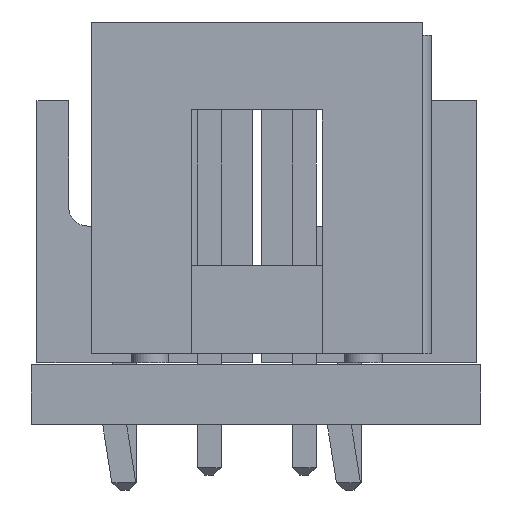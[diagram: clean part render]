
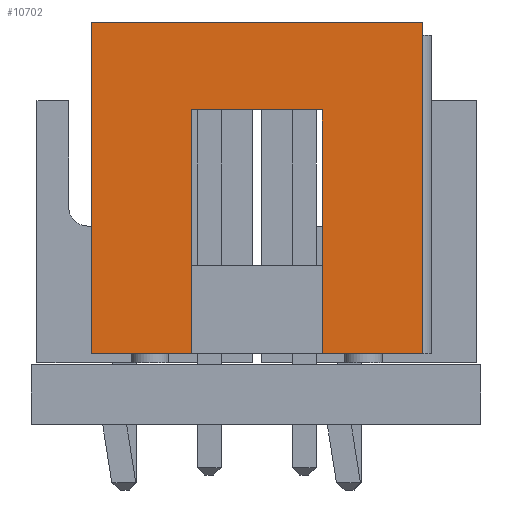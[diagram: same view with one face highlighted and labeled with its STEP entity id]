
A CAD part, left-side view. The second image highlights one B-rep face of the part: STEP entity #10702.
In plain terms, the highlighted planar face has unit normal (-1, 0, 0) as drawn and (0, -1, 0) by its records, which use the part's own axes.
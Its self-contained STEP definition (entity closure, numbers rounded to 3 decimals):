
#9846 = PLANE('',#9847);
#9847 = AXIS2_PLACEMENT_3D('',#9848,#9849,#9850);
#9848 = CARTESIAN_POINT('',(-3.155,-11.43,4.675));
#9849 = DIRECTION('',(-1.,0.,0.));
#9850 = DIRECTION('',(0.,0.,-1.));
#9871 = VERTEX_POINT('',#9872);
#9872 = CARTESIAN_POINT('',(-3.155,-27.96,0.25));
#9886 = PLANE('',#9887);
#9887 = AXIS2_PLACEMENT_3D('',#9888,#9889,#9890);
#9888 = CARTESIAN_POINT('',(1.304,-11.43,0.25));
#9889 = DIRECTION('',(-0.,-0.,-1.));
#9890 = DIRECTION('',(-1.,0.,0.));
#9898 = EDGE_CURVE('',#9871,#9899,#9901,.T.);
#9899 = VERTEX_POINT('',#9900);
#9900 = CARTESIAN_POINT('',(-3.155,-27.96,9.1));
#9901 = SURFACE_CURVE('',#9902,(#9906,#9913),.PCURVE_S1.);
#9902 = LINE('',#9903,#9904);
#9903 = CARTESIAN_POINT('',(-3.155,-27.96,2.6));
#9904 = VECTOR('',#9905,1.);
#9905 = DIRECTION('',(0.,0.,1.));
#9906 = PCURVE('',#9846,#9907);
#9907 = DEFINITIONAL_REPRESENTATION('',(#9908),#9912);
#9908 = LINE('',#9909,#9910);
#9909 = CARTESIAN_POINT('',(2.075,16.53));
#9910 = VECTOR('',#9911,1.);
#9911 = DIRECTION('',(-1.,0.));
#9912 = ( GEOMETRIC_REPRESENTATION_CONTEXT(2) 
PARAMETRIC_REPRESENTATION_CONTEXT() REPRESENTATION_CONTEXT('2D SPACE',''
  ) );
#9913 = PCURVE('',#9914,#9919);
#9914 = PLANE('',#9915);
#9915 = AXIS2_PLACEMENT_3D('',#9916,#9917,#9918);
#9916 = CARTESIAN_POINT('',(1.27,-27.96,4.675));
#9917 = DIRECTION('',(-0.,-1.,0.));
#9918 = DIRECTION('',(0.,0.,-1.));
#9919 = DEFINITIONAL_REPRESENTATION('',(#9920),#9924);
#9920 = LINE('',#9921,#9922);
#9921 = CARTESIAN_POINT('',(2.075,-4.425));
#9922 = VECTOR('',#9923,1.);
#9923 = DIRECTION('',(-1.,0.));
#9924 = ( GEOMETRIC_REPRESENTATION_CONTEXT(2) 
PARAMETRIC_REPRESENTATION_CONTEXT() REPRESENTATION_CONTEXT('2D SPACE',''
  ) );
#9942 = PLANE('',#9943);
#9943 = AXIS2_PLACEMENT_3D('',#9944,#9945,#9946);
#9944 = CARTESIAN_POINT('',(1.27,-11.43,9.1));
#9945 = DIRECTION('',(0.,0.,1.));
#9946 = DIRECTION('',(1.,0.,-0.));
#10080 = PLANE('',#10081);
#10081 = AXIS2_PLACEMENT_3D('',#10082,#10083,#10084);
#10082 = CARTESIAN_POINT('',(5.695,-11.43,4.675));
#10083 = DIRECTION('',(1.,0.,0.));
#10084 = DIRECTION('',(0.,0.,1.));
#10246 = EDGE_CURVE('',#9899,#10247,#10249,.T.);
#10247 = VERTEX_POINT('',#10248);
#10248 = CARTESIAN_POINT('',(5.695,-27.96,9.1));
#10249 = SURFACE_CURVE('',#10250,(#10254,#10261),.PCURVE_S1.);
#10250 = LINE('',#10251,#10252);
#10251 = CARTESIAN_POINT('',(-3.155,-27.96,9.1));
#10252 = VECTOR('',#10253,1.);
#10253 = DIRECTION('',(1.,0.,0.));
#10254 = PCURVE('',#9942,#10255);
#10255 = DEFINITIONAL_REPRESENTATION('',(#10256),#10260);
#10256 = LINE('',#10257,#10258);
#10257 = CARTESIAN_POINT('',(-4.425,-16.53));
#10258 = VECTOR('',#10259,1.);
#10259 = DIRECTION('',(1.,0.));
#10260 = ( GEOMETRIC_REPRESENTATION_CONTEXT(2) 
PARAMETRIC_REPRESENTATION_CONTEXT() REPRESENTATION_CONTEXT('2D SPACE',''
  ) );
#10261 = PCURVE('',#9914,#10262);
#10262 = DEFINITIONAL_REPRESENTATION('',(#10263),#10267);
#10263 = LINE('',#10264,#10265);
#10264 = CARTESIAN_POINT('',(-4.425,-4.425));
#10265 = VECTOR('',#10266,1.);
#10266 = DIRECTION('',(0.,1.));
#10267 = ( GEOMETRIC_REPRESENTATION_CONTEXT(2) 
PARAMETRIC_REPRESENTATION_CONTEXT() REPRESENTATION_CONTEXT('2D SPACE',''
  ) );
#10702 = ADVANCED_FACE('',(#10703),#9914,.T.);
#10703 = FACE_BOUND('',#10704,.T.);
#10704 = EDGE_LOOP('',(#10705,#10706,#10729,#10757,#10785,#10813,#10836,
    #10857));
#10705 = ORIENTED_EDGE('',*,*,#9898,.F.);
#10706 = ORIENTED_EDGE('',*,*,#10707,.T.);
#10707 = EDGE_CURVE('',#9871,#10708,#10710,.T.);
#10708 = VERTEX_POINT('',#10709);
#10709 = CARTESIAN_POINT('',(-0.48,-27.96,0.25));
#10710 = SURFACE_CURVE('',#10711,(#10715,#10722),.PCURVE_S1.);
#10711 = LINE('',#10712,#10713);
#10712 = CARTESIAN_POINT('',(-3.155,-27.96,0.25));
#10713 = VECTOR('',#10714,1.);
#10714 = DIRECTION('',(1.,0.,0.));
#10715 = PCURVE('',#9914,#10716);
#10716 = DEFINITIONAL_REPRESENTATION('',(#10717),#10721);
#10717 = LINE('',#10718,#10719);
#10718 = CARTESIAN_POINT('',(4.425,-4.425));
#10719 = VECTOR('',#10720,1.);
#10720 = DIRECTION('',(0.,1.));
#10721 = ( GEOMETRIC_REPRESENTATION_CONTEXT(2) 
PARAMETRIC_REPRESENTATION_CONTEXT() REPRESENTATION_CONTEXT('2D SPACE',''
  ) );
#10722 = PCURVE('',#9886,#10723);
#10723 = DEFINITIONAL_REPRESENTATION('',(#10724),#10728);
#10724 = LINE('',#10725,#10726);
#10725 = CARTESIAN_POINT('',(4.459,-16.53));
#10726 = VECTOR('',#10727,1.);
#10727 = DIRECTION('',(-1.,0.));
#10728 = ( GEOMETRIC_REPRESENTATION_CONTEXT(2) 
PARAMETRIC_REPRESENTATION_CONTEXT() REPRESENTATION_CONTEXT('2D SPACE',''
  ) );
#10729 = ORIENTED_EDGE('',*,*,#10730,.T.);
#10730 = EDGE_CURVE('',#10708,#10731,#10733,.T.);
#10731 = VERTEX_POINT('',#10732);
#10732 = CARTESIAN_POINT('',(-0.48,-27.96,6.75));
#10733 = SURFACE_CURVE('',#10734,(#10738,#10745),.PCURVE_S1.);
#10734 = LINE('',#10735,#10736);
#10735 = CARTESIAN_POINT('',(-0.48,-27.96,2.463));
#10736 = VECTOR('',#10737,1.);
#10737 = DIRECTION('',(0.,0.,1.));
#10738 = PCURVE('',#9914,#10739);
#10739 = DEFINITIONAL_REPRESENTATION('',(#10740),#10744);
#10740 = LINE('',#10741,#10742);
#10741 = CARTESIAN_POINT('',(2.213,-1.75));
#10742 = VECTOR('',#10743,1.);
#10743 = DIRECTION('',(-1.,0.));
#10744 = ( GEOMETRIC_REPRESENTATION_CONTEXT(2) 
PARAMETRIC_REPRESENTATION_CONTEXT() REPRESENTATION_CONTEXT('2D SPACE',''
  ) );
#10745 = PCURVE('',#10746,#10751);
#10746 = PLANE('',#10747);
#10747 = AXIS2_PLACEMENT_3D('',#10748,#10749,#10750);
#10748 = CARTESIAN_POINT('',(-0.48,-26.71,0.25));
#10749 = DIRECTION('',(1.,0.,0.));
#10750 = DIRECTION('',(0.,-1.,0.));
#10751 = DEFINITIONAL_REPRESENTATION('',(#10752),#10756);
#10752 = LINE('',#10753,#10754);
#10753 = CARTESIAN_POINT('',(1.25,-2.213));
#10754 = VECTOR('',#10755,1.);
#10755 = DIRECTION('',(0.,-1.));
#10756 = ( GEOMETRIC_REPRESENTATION_CONTEXT(2) 
PARAMETRIC_REPRESENTATION_CONTEXT() REPRESENTATION_CONTEXT('2D SPACE',''
  ) );
#10757 = ORIENTED_EDGE('',*,*,#10758,.F.);
#10758 = EDGE_CURVE('',#10759,#10731,#10761,.T.);
#10759 = VERTEX_POINT('',#10760);
#10760 = CARTESIAN_POINT('',(3.02,-27.96,6.75));
#10761 = SURFACE_CURVE('',#10762,(#10766,#10773),.PCURVE_S1.);
#10762 = LINE('',#10763,#10764);
#10763 = CARTESIAN_POINT('',(1.27,-27.96,6.75));
#10764 = VECTOR('',#10765,1.);
#10765 = DIRECTION('',(-1.,0.,0.));
#10766 = PCURVE('',#9914,#10767);
#10767 = DEFINITIONAL_REPRESENTATION('',(#10768),#10772);
#10768 = LINE('',#10769,#10770);
#10769 = CARTESIAN_POINT('',(-2.075,0.));
#10770 = VECTOR('',#10771,1.);
#10771 = DIRECTION('',(0.,-1.));
#10772 = ( GEOMETRIC_REPRESENTATION_CONTEXT(2) 
PARAMETRIC_REPRESENTATION_CONTEXT() REPRESENTATION_CONTEXT('2D SPACE',''
  ) );
#10773 = PCURVE('',#10774,#10779);
#10774 = PLANE('',#10775);
#10775 = AXIS2_PLACEMENT_3D('',#10776,#10777,#10778);
#10776 = CARTESIAN_POINT('',(1.27,-27.96,6.75));
#10777 = DIRECTION('',(0.,0.,1.));
#10778 = DIRECTION('',(1.,0.,-0.));
#10779 = DEFINITIONAL_REPRESENTATION('',(#10780),#10784);
#10780 = LINE('',#10781,#10782);
#10781 = CARTESIAN_POINT('',(0.,0.));
#10782 = VECTOR('',#10783,1.);
#10783 = DIRECTION('',(-1.,0.));
#10784 = ( GEOMETRIC_REPRESENTATION_CONTEXT(2) 
PARAMETRIC_REPRESENTATION_CONTEXT() REPRESENTATION_CONTEXT('2D SPACE',''
  ) );
#10785 = ORIENTED_EDGE('',*,*,#10786,.T.);
#10786 = EDGE_CURVE('',#10759,#10787,#10789,.T.);
#10787 = VERTEX_POINT('',#10788);
#10788 = CARTESIAN_POINT('',(3.02,-27.96,0.25));
#10789 = SURFACE_CURVE('',#10790,(#10794,#10801),.PCURVE_S1.);
#10790 = LINE('',#10791,#10792);
#10791 = CARTESIAN_POINT('',(3.02,-27.96,2.463));
#10792 = VECTOR('',#10793,1.);
#10793 = DIRECTION('',(0.,0.,-1.));
#10794 = PCURVE('',#9914,#10795);
#10795 = DEFINITIONAL_REPRESENTATION('',(#10796),#10800);
#10796 = LINE('',#10797,#10798);
#10797 = CARTESIAN_POINT('',(2.213,1.75));
#10798 = VECTOR('',#10799,1.);
#10799 = DIRECTION('',(1.,0.));
#10800 = ( GEOMETRIC_REPRESENTATION_CONTEXT(2) 
PARAMETRIC_REPRESENTATION_CONTEXT() REPRESENTATION_CONTEXT('2D SPACE',''
  ) );
#10801 = PCURVE('',#10802,#10807);
#10802 = PLANE('',#10803);
#10803 = AXIS2_PLACEMENT_3D('',#10804,#10805,#10806);
#10804 = CARTESIAN_POINT('',(3.02,-29.21,0.25));
#10805 = DIRECTION('',(-1.,0.,0.));
#10806 = DIRECTION('',(0.,1.,0.));
#10807 = DEFINITIONAL_REPRESENTATION('',(#10808),#10812);
#10808 = LINE('',#10809,#10810);
#10809 = CARTESIAN_POINT('',(1.25,-2.213));
#10810 = VECTOR('',#10811,1.);
#10811 = DIRECTION('',(0.,1.));
#10812 = ( GEOMETRIC_REPRESENTATION_CONTEXT(2) 
PARAMETRIC_REPRESENTATION_CONTEXT() REPRESENTATION_CONTEXT('2D SPACE',''
  ) );
#10813 = ORIENTED_EDGE('',*,*,#10814,.T.);
#10814 = EDGE_CURVE('',#10787,#10815,#10817,.T.);
#10815 = VERTEX_POINT('',#10816);
#10816 = CARTESIAN_POINT('',(5.695,-27.96,0.25));
#10817 = SURFACE_CURVE('',#10818,(#10822,#10829),.PCURVE_S1.);
#10818 = LINE('',#10819,#10820);
#10819 = CARTESIAN_POINT('',(-3.155,-27.96,0.25));
#10820 = VECTOR('',#10821,1.);
#10821 = DIRECTION('',(1.,0.,0.));
#10822 = PCURVE('',#9914,#10823);
#10823 = DEFINITIONAL_REPRESENTATION('',(#10824),#10828);
#10824 = LINE('',#10825,#10826);
#10825 = CARTESIAN_POINT('',(4.425,-4.425));
#10826 = VECTOR('',#10827,1.);
#10827 = DIRECTION('',(0.,1.));
#10828 = ( GEOMETRIC_REPRESENTATION_CONTEXT(2) 
PARAMETRIC_REPRESENTATION_CONTEXT() REPRESENTATION_CONTEXT('2D SPACE',''
  ) );
#10829 = PCURVE('',#9886,#10830);
#10830 = DEFINITIONAL_REPRESENTATION('',(#10831),#10835);
#10831 = LINE('',#10832,#10833);
#10832 = CARTESIAN_POINT('',(4.459,-16.53));
#10833 = VECTOR('',#10834,1.);
#10834 = DIRECTION('',(-1.,0.));
#10835 = ( GEOMETRIC_REPRESENTATION_CONTEXT(2) 
PARAMETRIC_REPRESENTATION_CONTEXT() REPRESENTATION_CONTEXT('2D SPACE',''
  ) );
#10836 = ORIENTED_EDGE('',*,*,#10837,.T.);
#10837 = EDGE_CURVE('',#10815,#10247,#10838,.T.);
#10838 = SURFACE_CURVE('',#10839,(#10843,#10850),.PCURVE_S1.);
#10839 = LINE('',#10840,#10841);
#10840 = CARTESIAN_POINT('',(5.695,-27.96,0.25));
#10841 = VECTOR('',#10842,1.);
#10842 = DIRECTION('',(0.,0.,1.));
#10843 = PCURVE('',#9914,#10844);
#10844 = DEFINITIONAL_REPRESENTATION('',(#10845),#10849);
#10845 = LINE('',#10846,#10847);
#10846 = CARTESIAN_POINT('',(4.425,4.425));
#10847 = VECTOR('',#10848,1.);
#10848 = DIRECTION('',(-1.,0.));
#10849 = ( GEOMETRIC_REPRESENTATION_CONTEXT(2) 
PARAMETRIC_REPRESENTATION_CONTEXT() REPRESENTATION_CONTEXT('2D SPACE',''
  ) );
#10850 = PCURVE('',#10080,#10851);
#10851 = DEFINITIONAL_REPRESENTATION('',(#10852),#10856);
#10852 = LINE('',#10853,#10854);
#10853 = CARTESIAN_POINT('',(-4.425,16.53));
#10854 = VECTOR('',#10855,1.);
#10855 = DIRECTION('',(1.,0.));
#10856 = ( GEOMETRIC_REPRESENTATION_CONTEXT(2) 
PARAMETRIC_REPRESENTATION_CONTEXT() REPRESENTATION_CONTEXT('2D SPACE',''
  ) );
#10857 = ORIENTED_EDGE('',*,*,#10246,.F.);
